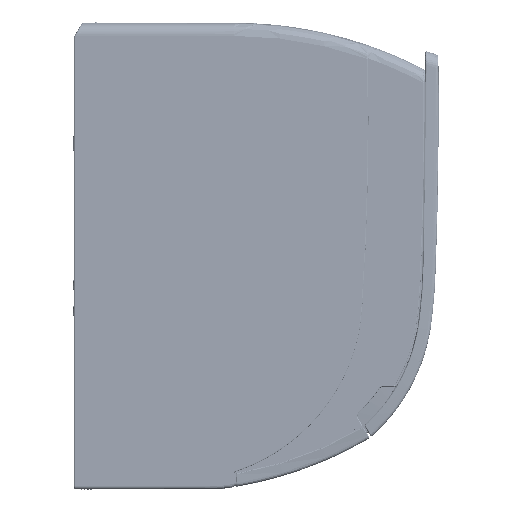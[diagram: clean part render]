
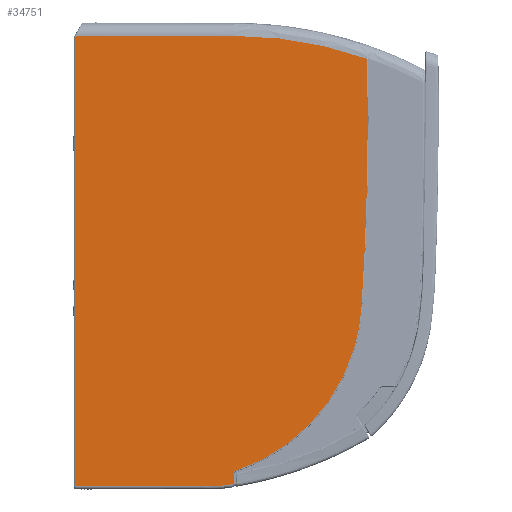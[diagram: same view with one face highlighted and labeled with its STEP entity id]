
A CAD part, left-side view. The second image highlights one B-rep face of the part: STEP entity #34751.
In plain terms, the highlighted planar face has unit normal (-1, -0.009, 0).
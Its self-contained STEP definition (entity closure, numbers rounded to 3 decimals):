
#34751 = ADVANCED_FACE( '', ( #79029 ), #79030, .T. );
#79029 = FACE_OUTER_BOUND( '', #182684, .T. );
#79030 = PLANE( '', #182685 );
#182684 = EDGE_LOOP( '', ( #341101, #341102, #341103, #341104, #341105, #341106, #341107, #341108, #341109, #341110, #341111 ) );
#182685 = AXIS2_PLACEMENT_3D( '', #341112, #341113, #341114 );
#341101 = ORIENTED_EDGE( '', *, *, #445855, .T. );
#341102 = ORIENTED_EDGE( '', *, *, #457179, .T. );
#341103 = ORIENTED_EDGE( '', *, *, #456225, .T. );
#341104 = ORIENTED_EDGE( '', *, *, #428900, .T. );
#341105 = ORIENTED_EDGE( '', *, *, #462999, .T. );
#341106 = ORIENTED_EDGE( '', *, *, #463000, .T. );
#341107 = ORIENTED_EDGE( '', *, *, #463001, .T. );
#341108 = ORIENTED_EDGE( '', *, *, #463002, .T. );
#341109 = ORIENTED_EDGE( '', *, *, #453571, .T. );
#341110 = ORIENTED_EDGE( '', *, *, #463003, .T. );
#341111 = ORIENTED_EDGE( '', *, *, #458697, .T. );
#341112 = CARTESIAN_POINT( '', ( -385., 86.5, 7.2 ) );
#341113 = DIRECTION( '', ( -1., -0.009, 0. ) );
#341114 = DIRECTION( '', ( 0.009, -1., 0. ) );
#428900 = EDGE_CURVE( '', #496791, #496792, #496793, .T. );
#445855 = EDGE_CURVE( '', #524903, #495080, #524904, .T. );
#453571 = EDGE_CURVE( '', #536638, #536643, #536645, .T. );
#456225 = EDGE_CURVE( '', #540521, #496791, #540522, .T. );
#457179 = EDGE_CURVE( '', #495080, #540521, #541882, .F. );
#458697 = EDGE_CURVE( '', #544080, #524903, #544081, .T. );
#462999 = EDGE_CURVE( '', #496792, #549977, #549978, .T. );
#463000 = EDGE_CURVE( '', #549977, #549979, #549980, .T. );
#463001 = EDGE_CURVE( '', #549979, #549981, #549982, .T. );
#463002 = EDGE_CURVE( '', #549981, #536638, #549983, .F. );
#463003 = EDGE_CURVE( '', #536643, #544080, #549984, .T. );
#495080 = VERTEX_POINT( '', #598478 );
#496791 = VERTEX_POINT( '', #602544 );
#496792 = VERTEX_POINT( '', #602545 );
#496793 = LINE( '', #602546, #602547 );
#524903 = VERTEX_POINT( '', #669260 );
#524904 = LINE( '', #669261, #669262 );
#536638 = VERTEX_POINT( '', #697693 );
#536643 = VERTEX_POINT( '', #697698 );
#536645 = ELLIPSE( '', #697700, 112.9, 112.896 );
#540521 = VERTEX_POINT( '', #708566 );
#540522 = LINE( '', #708567, #708568 );
#541882 = LINE( '', #711808, #711809 );
#544080 = VERTEX_POINT( '', #718208 );
#544081 = ELLIPSE( '', #718209, 242.009, 242. );
#549977 = VERTEX_POINT( '', #732568 );
#549978 = ELLIPSE( '', #732569, 28.001, 28. );
#549979 = VERTEX_POINT( '', #732570 );
#549980 = ELLIPSE( '', #732571, 238.009, 238. );
#549981 = VERTEX_POINT( '', #732572 );
#549982 = LINE( '', #732573, #732574 );
#549983 = ELLIPSE( '', #732575, 1.5, 1.5 );
#549984 = ELLIPSE( '', #732576, 1766.567, 1766.5 );
#598478 = CARTESIAN_POINT( '', ( -384.989, 85.271, 141.7 ) );
#602544 = CARTESIAN_POINT( '', ( -384.993, 85.693, -133.3 ) );
#602545 = CARTESIAN_POINT( '', ( -384.24, -0.59, -133.3 ) );
#602546 = CARTESIAN_POINT( '', ( -385., 86.5, -133.3 ) );
#602547 = VECTOR( '', #811375, 1000. );
#669260 = CARTESIAN_POINT( '', ( -384.144, -11.57, 141.7 ) );
#669261 = CARTESIAN_POINT( '', ( -385., 86.5, 141.7 ) );
#669262 = VECTOR( '', #833995, 1000. );
#697693 = CARTESIAN_POINT( '', ( -384.14, -12.033, -124.18 ) );
#697698 = CARTESIAN_POINT( '', ( -383.467, -89.179, -24.438 ) );
#697700 = AXIS2_PLACEMENT_3D( '', #843813, #843814, #843815 );
#708566 = CARTESIAN_POINT( '', ( -384.993, 85.693, 140.982 ) );
#708567 = CARTESIAN_POINT( '', ( -384.993, 85.693, 7.2 ) );
#708568 = VECTOR( '', #846969, 1000. );
#711808 = CARTESIAN_POINT( '', ( -384.994, 85.805, 140.791 ) );
#711809 = VECTOR( '', #848147, 1000. );
#718208 = CARTESIAN_POINT( '', ( -383.437, -92.638, 127.717 ) );
#718209 = AXIS2_PLACEMENT_3D( '', #849973, #849974, #849975 );
#732568 = CARTESIAN_POINT( '', ( -384.208, -4.296, -133.054 ) );
#732569 = AXIS2_PLACEMENT_3D( '', #855332, #855333, #855334 );
#732570 = CARTESIAN_POINT( '', ( -384.149, -11.004, -132.06 ) );
#732571 = AXIS2_PLACEMENT_3D( '', #855335, #855336, #855337 );
#732572 = CARTESIAN_POINT( '', ( -384.149, -11.004, -125.604 ) );
#732573 = CARTESIAN_POINT( '', ( -384.149, -11.004, -125.604 ) );
#732574 = VECTOR( '', #855338, 1000. );
#732575 = AXIS2_PLACEMENT_3D( '', #855339, #855340, #855341 );
#732576 = AXIS2_PLACEMENT_3D( '', #855342, #855343, #855344 );
#811375 = DIRECTION( '', ( 0.009, -1., 0. ) );
#833995 = DIRECTION( '', ( -0.009, 1., 0. ) );
#843813 = CARTESIAN_POINT( '', ( -384.45, 23.472, -17.012 ) );
#843814 = DIRECTION( '', ( -1., -0.009, 0. ) );
#843815 = DIRECTION( '', ( -0.009, 1., 0. ) );
#846969 = DIRECTION( '', ( 0., 0., -1. ) );
#848147 = DIRECTION( '', ( 0.004, -0.507, 0.862 ) );
#849973 = CARTESIAN_POINT( '', ( -384.144, -11.57, -100.3 ) );
#849974 = DIRECTION( '', ( -1., -0.009, 0. ) );
#849975 = DIRECTION( '', ( -0.009, 1., 0. ) );
#855332 = CARTESIAN_POINT( '', ( -384.24, -0.59, -105.3 ) );
#855333 = DIRECTION( '', ( -1., -0.009, 0. ) );
#855334 = DIRECTION( '', ( -0.009, 1., 0. ) );
#855335 = CARTESIAN_POINT( '', ( -384.483, 27.204, 102.853 ) );
#855336 = DIRECTION( '', ( -1., -0.009, 0. ) );
#855337 = DIRECTION( '', ( -0.009, 1., 0. ) );
#855338 = DIRECTION( '', ( 0., 0., 1. ) );
#855339 = CARTESIAN_POINT( '', ( -384.136, -12.504, -125.604 ) );
#855340 = DIRECTION( '', ( -1., -0.009, 0. ) );
#855341 = DIRECTION( '', ( -0.009, 1., 0. ) );
#855342 = CARTESIAN_POINT( '', ( -398.85, 1673.496, 91.755 ) );
#855343 = DIRECTION( '', ( -1., -0.009, 0. ) );
#855344 = DIRECTION( '', ( -0.009, 1., 0. ) );
